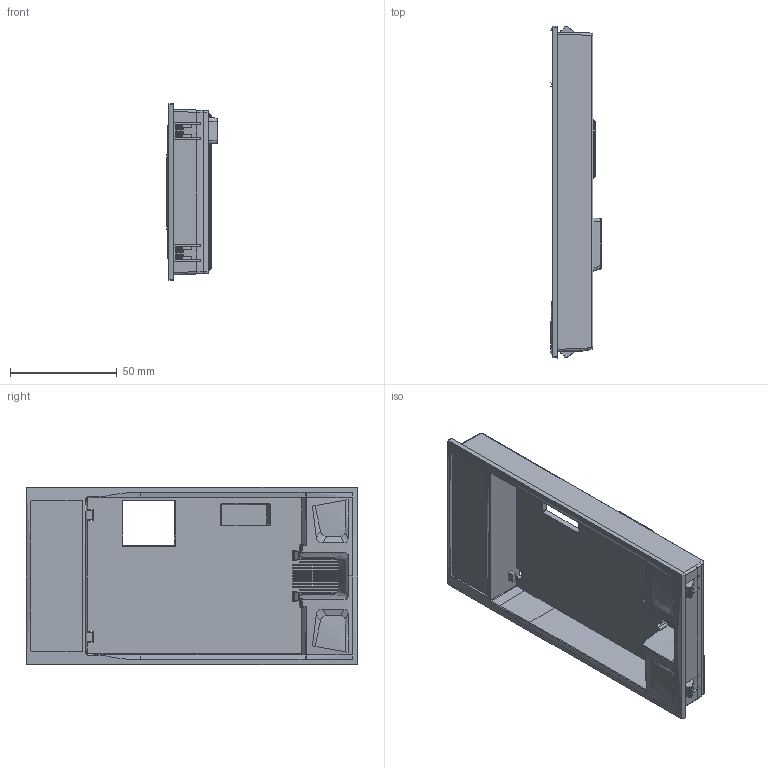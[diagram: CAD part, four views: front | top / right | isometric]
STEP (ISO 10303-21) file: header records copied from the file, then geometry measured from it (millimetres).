
FILE_DESCRIPTION(('STEP AP203'), '1');
FILE_NAME('INMX-MF _ Ðàìêà ìîíòàæíàÿ', '2025-11-05T10:25:16', ('admin'), (''), 'C3D Converter', 'C3D Toolkit', '');
FILE_SCHEMA(('CONFIG_CONTROL_DESIGN'));
Length unit declared in the file: millimetre
Products named in the file (2): INMX-MF; CA700-SJ-21_A
Assembly tree (1 placements, depth 2):
  INMX-MF
    CA700-SJ-21_A
Bounding box: 23.8 x 155 x 83 mm (x, y, z)
Volume: 42366.6 mm3; surface area: 49456.3 mm2
Topology: 1 solids, 1 shells, 605 faces, 1660 edges, 1073 vertices
Faces by surface type: plane 282, bspline 171, cylinder 126, torus 10, extrusion 8, sphere 4, cone 4
Entity records: 38196 total; most frequent: CARTESIAN_POINT 19548, ORIENTED_EDGE 3316, DIRECTION 2115, EDGE_CURVE 1658, VERTEX_POINT 1073, VECTOR 939, LINE 931, FACE_BOUND 641
